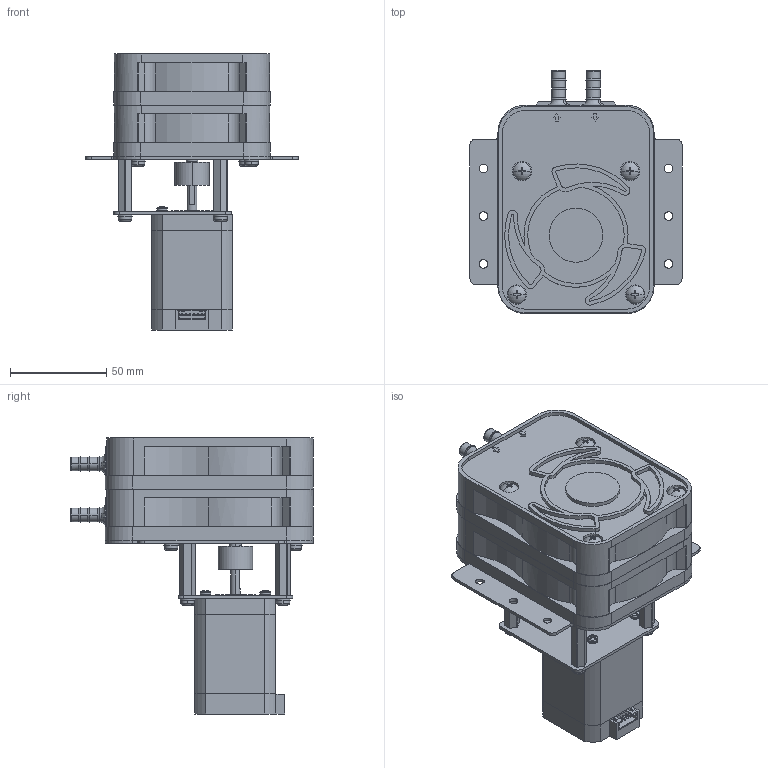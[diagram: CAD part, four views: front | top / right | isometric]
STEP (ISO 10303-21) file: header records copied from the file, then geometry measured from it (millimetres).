
FILE_DESCRIPTION (( 'STEP AP214' ), '1' );
FILE_NAME ('RP-S06x-600Z-DC24VS.STEP', '2025-02-28T01:01:39', ( '' ), ( '' ), 'SwSTEP 2.0', 'SolidWorks 2024', '' );
FILE_SCHEMA (( 'AUTOMOTIVE_DESIGN' ));
Length unit declared in the file: millimetre
Products named in the file (18): M4x8皿アルミサッシ用; 六角スペーサ軸 - 27 -両雌ねじ; XYN3+6P2_CSPPNZP-ST-M3-6; AR-JK47_結合軸; NKM-17D80A4; CSPPNZP-ST-M3-6-1_CSPPNZP-ST-M3-6-1; ベース_AR-BA12A - forWeb; S6B-PH-K-S; カバー_RP-CA16 - forWeb; カバー止めねじ_M4x16_SUSトラス; CSPPNZP-ST-M3-6-2_CSPPNZP-ST-M3-6-2; ジョイナー_AR-JN06-1 - forWeb; 取付板_AR-BL29; AR-BL61_MOTOR取付板（S); スペーサー取り付けねじ_M4x8　P2; RP-S06x-600Z-DC24VS; RP-S MOTOR軸 - forWeb
Assembly tree (35 placements, depth 3):
  RP-S06x-600Z-DC24VS
    ジョイナー_AR-JN06-1 - forWeb  x2
    カバー止めねじ_M4x16_SUSトラス  x4
    スペーサー取り付けねじ_M4x8　P2  x7
    ベース_AR-BA12A - forWeb  x2
    取付板_AR-BL29
    カバー_RP-CA16 - forWeb  x2
    M4x8皿アルミサッシ用
    六角スペーサ軸 - 27 -両雌ねじ  x4
    AR-BL61_MOTOR取付板（S)
    XYN3+6P2_CSPPNZP-ST-M3-6  x4
      CSPPNZP-ST-M3-6-1_CSPPNZP-ST-M3-6-1
      CSPPNZP-ST-M3-6-2_CSPPNZP-ST-M3-6-2
    NKM-17D80A4
      NKM-17D80A4
      S6B-PH-K-S
    AR-JK47_結合軸
    RP-S MOTOR軸 - forWeb
Bounding box: 110 x 126 x 143.2 mm (x, y, z)
Volume: 500320.8 mm3; surface area: 180578.8 mm2
Topology: 38 solids, 38 shells, 2033 faces, 5229 edges, 3416 vertices
Faces by surface type: cylinder 940, plane 885, torus 124, cone 68, sphere 16
Entity records: 31999 total; most frequent: CARTESIAN_POINT 5953, DIRECTION 5661, ORIENTED_EDGE 5132, EDGE_CURVE 2566, AXIS2_PLACEMENT_3D 2140, VERTEX_POINT 1675, LINE 1381, VECTOR 1381
